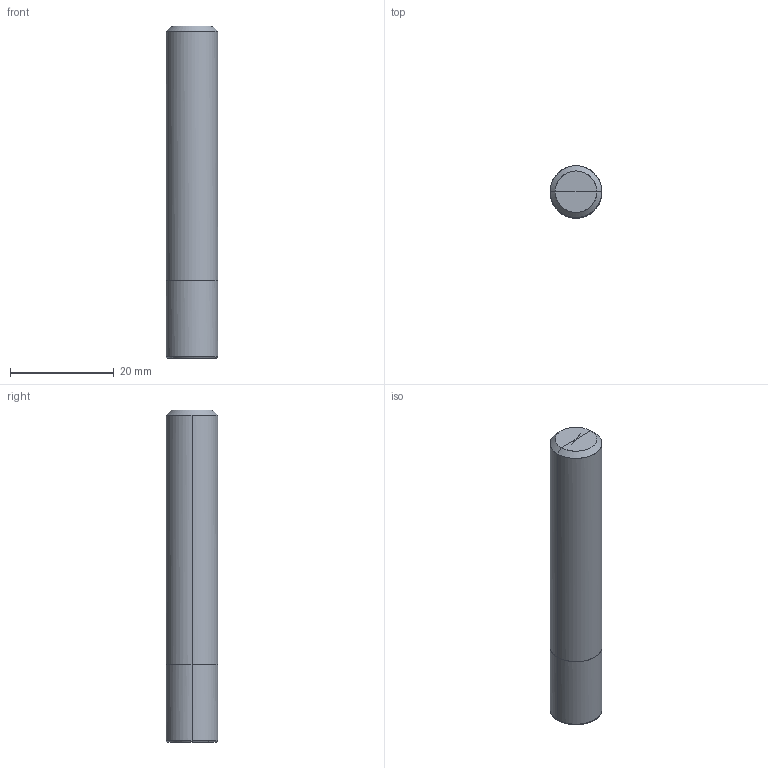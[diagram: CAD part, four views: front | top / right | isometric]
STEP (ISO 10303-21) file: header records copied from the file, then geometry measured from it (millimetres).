
FILE_DESCRIPTION(/* description */ (''),/* implementation_level */ '2;1');
FILE_NAME(/*name*/ '5031-10F-0.25R',/*time_stamp*/'2021-4-28T11:51:33',/*author*/ ('ISBE GmbH'),/*organization*/ ('ISBE GmbH'),/*preprocessor_version*/ 'STEP IO v1.0',/*originating_system*/ '',/*authorisation*/ '');
FILE_SCHEMA (('AUTOMOTIVE_DESIGN'));
Length unit declared in the file: millimetre
Products named in the file (1): Document
Bounding box: 10 x 10 x 64 mm (x, y, z)
Surface area: 2304.9 mm2 (no closed solid volume)
Topology: 0 solids, 16 shells, 16 faces, 69 edges, 66 vertices
Faces by surface type: bspline 16
Entity records: 1401 total; most frequent: CARTESIAN_POINT 1094, VERTEX_POINT 56, EDGE_CURVE 56, ORIENTED_EDGE 56, DIRECTION 16, EDGE_LOOP 16, FACE_OUTER_BOUND 16, ADVANCED_FACE 16
